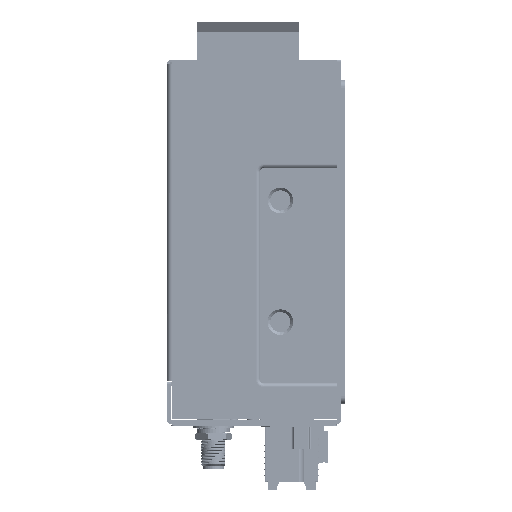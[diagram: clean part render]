
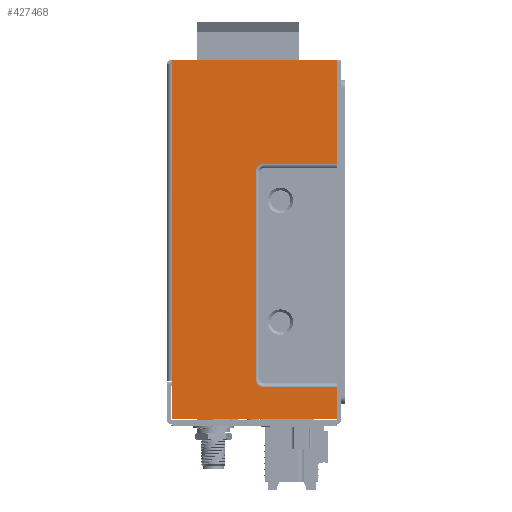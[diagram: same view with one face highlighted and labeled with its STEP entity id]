
A CAD part, left-side view. The second image highlights one B-rep face of the part: STEP entity #427468.
In plain terms, the highlighted planar face has unit normal (-1, 0, 0).
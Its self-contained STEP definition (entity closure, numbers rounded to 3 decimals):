
#3459 = VECTOR ( 'NONE', #328709, 1000. ) ;
#3643 = EDGE_CURVE ( 'NONE', #199501, #528910, #214520, .T. ) ;
#3983 = VECTOR ( 'NONE', #361820, 1000. ) ;
#7020 = LINE ( 'NONE', #369466, #14777 ) ;
#14408 = VERTEX_POINT ( 'NONE', #430130 ) ;
#14777 = VECTOR ( 'NONE', #275232, 1000. ) ;
#14902 = DIRECTION ( 'NONE',  ( 1., 0., 0. ) ) ;
#16408 = EDGE_CURVE ( 'NONE', #598711, #528910, #368306, .T. ) ;
#18587 = LINE ( 'NONE', #492230, #528548 ) ;
#32129 = DIRECTION ( 'NONE',  ( 0., 1., 0. ) ) ;
#33344 = CARTESIAN_POINT ( 'NONE',  ( 0., 41., 0. ) ) ;
#35280 = CIRCLE ( 'NONE', #124484, 2. ) ;
#42063 = CARTESIAN_POINT ( 'NONE',  ( 0., 40.5, -78.6 ) ) ;
#43254 = AXIS2_PLACEMENT_3D ( 'NONE', #635224, #158256, #370747 ) ;
#48296 = CARTESIAN_POINT ( 'NONE',  ( 0., 0.25, -77.923 ) ) ;
#57702 = LINE ( 'NONE', #430386, #179931 ) ;
#60508 = LINE ( 'NONE', #593293, #3459 ) ;
#63752 = CARTESIAN_POINT ( 'NONE',  ( 0., 0., 0. ) ) ;
#70988 = EDGE_CURVE ( 'NONE', #149964, #511513, #35280, .T. ) ;
#74102 = EDGE_CURVE ( 'NONE', #157889, #432172, #18587, .T. ) ;
#83214 = VERTEX_POINT ( 'NONE', #403514 ) ;
#84436 = DIRECTION ( 'NONE',  ( -1., 0., 0. ) ) ;
#88908 = ORIENTED_EDGE ( 'NONE', *, *, #454426, .T. ) ;
#95503 = VERTEX_POINT ( 'NONE', #489336 ) ;
#102763 = CARTESIAN_POINT ( 'NONE',  ( 0., 23., -51.35 ) ) ;
#104757 = DIRECTION ( 'NONE',  ( 0., 1., 0. ) ) ;
#109249 = FACE_OUTER_BOUND ( 'NONE', #684619, .T. ) ;
#113185 = CARTESIAN_POINT ( 'NONE',  ( 0., 21., -51.35 ) ) ;
#115463 = EDGE_CURVE ( 'NONE', #300804, #83214, #249390, .T. ) ;
#124484 = AXIS2_PLACEMENT_3D ( 'NONE', #412485, #513422, #624774 ) ;
#127761 = CARTESIAN_POINT ( 'NONE',  ( 0., 41., -53.35 ) ) ;
#132830 = ORIENTED_EDGE ( 'NONE', *, *, #530908, .T. ) ;
#138871 = ORIENTED_EDGE ( 'NONE', *, *, #460203, .T. ) ;
#141970 = VECTOR ( 'NONE', #618405, 1000. ) ;
#145986 = CARTESIAN_POINT ( 'NONE',  ( 0., 0.25, -79.1 ) ) ;
#149964 = VERTEX_POINT ( 'NONE', #593306 ) ;
#157889 = VERTEX_POINT ( 'NONE', #127761 ) ;
#158256 = DIRECTION ( 'NONE',  ( -1., 0., 0. ) ) ;
#163800 = VECTOR ( 'NONE', #685013, 1000. ) ;
#168719 = DIRECTION ( 'NONE',  ( 1., 0., 0. ) ) ;
#171115 = VECTOR ( 'NONE', #401899, 1000. ) ;
#178594 = AXIS2_PLACEMENT_3D ( 'NONE', #316707, #84436, #32129 ) ;
#179931 = VECTOR ( 'NONE', #652939, 1000. ) ;
#183525 = CIRCLE ( 'NONE', #594932, 0.5 ) ;
#199501 = VERTEX_POINT ( 'NONE', #331205 ) ;
#204465 = CARTESIAN_POINT ( 'NONE',  ( 0., 0., -53.35 ) ) ;
#205764 = EDGE_CURVE ( 'NONE', #432172, #215125, #183525, .T. ) ;
#207298 = DIRECTION ( 'NONE',  ( 0., 1., 0. ) ) ;
#214473 = ORIENTED_EDGE ( 'NONE', *, *, #3643, .T. ) ;
#214520 = CIRCLE ( 'NONE', #448010, 0.5 ) ;
#215125 = VERTEX_POINT ( 'NONE', #255714 ) ;
#229210 = VECTOR ( 'NONE', #499539, 1000. ) ;
#232019 = CARTESIAN_POINT ( 'NONE',  ( 0., 23., -53.35 ) ) ;
#238161 = CIRCLE ( 'NONE', #527315, 2. ) ;
#241781 = LINE ( 'NONE', #561886, #171115 ) ;
#249390 = LINE ( 'NONE', #33344, #141970 ) ;
#251081 = ORIENTED_EDGE ( 'NONE', *, *, #636738, .T. ) ;
#253584 = ORIENTED_EDGE ( 'NONE', *, *, #400661, .F. ) ;
#255714 = CARTESIAN_POINT ( 'NONE',  ( 0., 40.5, -79.1 ) ) ;
#265114 = ORIENTED_EDGE ( 'NONE', *, *, #304635, .T. ) ;
#275232 = DIRECTION ( 'NONE',  ( 0., 0., 1. ) ) ;
#277101 = ORIENTED_EDGE ( 'NONE', *, *, #16408, .F. ) ;
#282824 = ORIENTED_EDGE ( 'NONE', *, *, #205764, .T. ) ;
#287502 = VERTEX_POINT ( 'NONE', #113185 ) ;
#290640 = ORIENTED_EDGE ( 'NONE', *, *, #74102, .T. ) ;
#296152 = AXIS2_PLACEMENT_3D ( 'NONE', #63752, #14902, #491988 ) ;
#300804 = VERTEX_POINT ( 'NONE', #662539 ) ;
#300875 = CIRCLE ( 'NONE', #178594, 0.5 ) ;
#304635 = EDGE_CURVE ( 'NONE', #598711, #300804, #300875, .T. ) ;
#309116 = CARTESIAN_POINT ( 'NONE',  ( 0., 41., 9.65 ) ) ;
#310326 = CIRCLE ( 'NONE', #43254, 0.5 ) ;
#316707 = CARTESIAN_POINT ( 'NONE',  ( 0., 40.5, 9.15 ) ) ;
#328709 = DIRECTION ( 'NONE',  ( 0., -1., 0. ) ) ;
#331205 = CARTESIAN_POINT ( 'NONE',  ( 0., 0.25, 9.15 ) ) ;
#331797 = ORIENTED_EDGE ( 'NONE', *, *, #556693, .F. ) ;
#332199 = DIRECTION ( 'NONE',  ( 0., 0., -1. ) ) ;
#354941 = LINE ( 'NONE', #145986, #3983 ) ;
#361820 = DIRECTION ( 'NONE',  ( 0., 0., -1. ) ) ;
#363682 = PLANE ( 'NONE',  #296152 ) ;
#367882 = DIRECTION ( 'NONE',  ( -1., 0., 0. ) ) ;
#368306 = LINE ( 'NONE', #309116, #163800 ) ;
#369466 = CARTESIAN_POINT ( 'NONE',  ( 0., 0.25, -119.862 ) ) ;
#370747 = DIRECTION ( 'NONE',  ( 0., 1., 0. ) ) ;
#373585 = CARTESIAN_POINT ( 'NONE',  ( 0., 0.75, -79.1 ) ) ;
#385377 = CARTESIAN_POINT ( 'NONE',  ( 0., 40.5, 9.65 ) ) ;
#392698 = CARTESIAN_POINT ( 'NONE',  ( 0., 0.75, 9.65 ) ) ;
#394054 = ORIENTED_EDGE ( 'NONE', *, *, #70988, .T. ) ;
#400661 = EDGE_CURVE ( 'NONE', #199501, #14408, #57702, .T. ) ;
#401899 = DIRECTION ( 'NONE',  ( 0., -1., 0. ) ) ;
#403514 = CARTESIAN_POINT ( 'NONE',  ( 0., 41., 1.65 ) ) ;
#412485 = CARTESIAN_POINT ( 'NONE',  ( 0., 23., -0.35 ) ) ;
#416861 = DIRECTION ( 'NONE',  ( 0., 1., 0. ) ) ;
#419716 = VERTEX_POINT ( 'NONE', #232019 ) ;
#427468 = ADVANCED_FACE ( 'NONE', ( #109249 ), #363682, .F. ) ;
#430130 = CARTESIAN_POINT ( 'NONE',  ( 0., 0.25, 0.15 ) ) ;
#430386 = CARTESIAN_POINT ( 'NONE',  ( 0., 0.25, 9.65 ) ) ;
#432172 = VERTEX_POINT ( 'NONE', #532161 ) ;
#442359 = CARTESIAN_POINT ( 'NONE',  ( 0., 21., -0.35 ) ) ;
#447256 = LINE ( 'NONE', #489202, #229210 ) ;
#448010 = AXIS2_PLACEMENT_3D ( 'NONE', #632379, #367882, #593809 ) ;
#448265 = VECTOR ( 'NONE', #416861, 1000. ) ;
#454426 = EDGE_CURVE ( 'NONE', #591181, #95503, #310326, .T. ) ;
#456063 = ORIENTED_EDGE ( 'NONE', *, *, #115463, .T. ) ;
#460203 = EDGE_CURVE ( 'NONE', #83214, #149964, #60508, .T. ) ;
#489202 = CARTESIAN_POINT ( 'NONE',  ( 0., 21., 0. ) ) ;
#489336 = CARTESIAN_POINT ( 'NONE',  ( 0., 0.25, -78.6 ) ) ;
#491988 = DIRECTION ( 'NONE',  ( 0., 1., 0. ) ) ;
#492230 = CARTESIAN_POINT ( 'NONE',  ( 0., 41., 0. ) ) ;
#499539 = DIRECTION ( 'NONE',  ( 0., 0., -1. ) ) ;
#511513 = VERTEX_POINT ( 'NONE', #442359 ) ;
#513422 = DIRECTION ( 'NONE',  ( 1., 0., 0. ) ) ;
#527315 = AXIS2_PLACEMENT_3D ( 'NONE', #102763, #168719, #207298 ) ;
#528548 = VECTOR ( 'NONE', #332199, 1000. ) ;
#528910 = VERTEX_POINT ( 'NONE', #392698 ) ;
#530908 = EDGE_CURVE ( 'NONE', #95503, #565920, #7020, .T. ) ;
#531582 = EDGE_CURVE ( 'NONE', #287502, #419716, #238161, .T. ) ;
#532161 = CARTESIAN_POINT ( 'NONE',  ( 0., 41., -78.6 ) ) ;
#541991 = EDGE_CURVE ( 'NONE', #419716, #157889, #681391, .T. ) ;
#556693 = EDGE_CURVE ( 'NONE', #14408, #565920, #354941, .T. ) ;
#557364 = EDGE_CURVE ( 'NONE', #215125, #591181, #241781, .T. ) ;
#561886 = CARTESIAN_POINT ( 'NONE',  ( 0., 0.25, -79.1 ) ) ;
#561928 = ORIENTED_EDGE ( 'NONE', *, *, #557364, .T. ) ;
#565920 = VERTEX_POINT ( 'NONE', #48296 ) ;
#572550 = ORIENTED_EDGE ( 'NONE', *, *, #541991, .T. ) ;
#591181 = VERTEX_POINT ( 'NONE', #373585 ) ;
#593293 = CARTESIAN_POINT ( 'NONE',  ( 0., 23., 1.65 ) ) ;
#593306 = CARTESIAN_POINT ( 'NONE',  ( 0., 23., 1.65 ) ) ;
#593809 = DIRECTION ( 'NONE',  ( 0., 1., 0. ) ) ;
#594932 = AXIS2_PLACEMENT_3D ( 'NONE', #42063, #679315, #104757 ) ;
#598711 = VERTEX_POINT ( 'NONE', #385377 ) ;
#618405 = DIRECTION ( 'NONE',  ( 0., 0., -1. ) ) ;
#624774 = DIRECTION ( 'NONE',  ( 0., 1., 0. ) ) ;
#631412 = ORIENTED_EDGE ( 'NONE', *, *, #531582, .T. ) ;
#632379 = CARTESIAN_POINT ( 'NONE',  ( 0., 0.75, 9.15 ) ) ;
#635224 = CARTESIAN_POINT ( 'NONE',  ( 0., 0.75, -78.6 ) ) ;
#636738 = EDGE_CURVE ( 'NONE', #511513, #287502, #447256, .T. ) ;
#652939 = DIRECTION ( 'NONE',  ( 0., 0., -1. ) ) ;
#662539 = CARTESIAN_POINT ( 'NONE',  ( 0., 41., 9.15 ) ) ;
#679315 = DIRECTION ( 'NONE',  ( -1., 0., 0. ) ) ;
#681391 = LINE ( 'NONE', #204465, #448265 ) ;
#684619 = EDGE_LOOP ( 'NONE', ( #561928, #88908, #132830, #331797, #253584, #214473, #277101, #265114, #456063, #138871, #394054, #251081, #631412, #572550, #290640, #282824 ) ) ;
#685013 = DIRECTION ( 'NONE',  ( 0., -1., 0. ) ) ;
